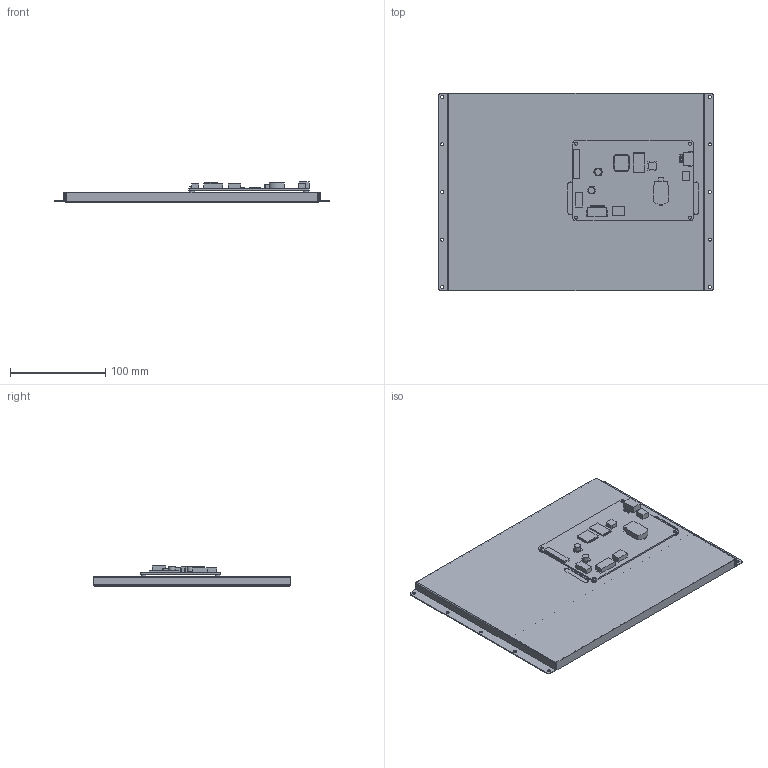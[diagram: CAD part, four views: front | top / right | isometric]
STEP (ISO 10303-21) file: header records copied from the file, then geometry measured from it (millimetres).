
FILE_DESCRIPTION(/* description */ (''),/* implementation_level */ '2;1');
FILE_NAME(/* name */ '',/* time_stamp */ '2021-04-20T11:32:44+08:00',/* author */ (''),/* organization */ (''),/* preprocessor_version */ 'ST-DEVELOPER v11',/* originating_system */ 'SIEMENS PLM Software NX 7.5',/* authorisation */ '');
FILE_SCHEMA (('AP203_CONFIGURATION_CONTROLLED_3D_DESIGN_OF_MECHANICAL_PARTS_AND_ASSEMBLIES_MIM_LF'));
Length unit declared in the file: millimetre
Products named in the file (1): SDWe121T87N
Bounding box: 288.8 x 207.4 x 21.1 mm (x, y, z)
Volume: 496951.7 mm3; surface area: 465808.1 mm2
Topology: 21 solids, 21 shells, 1410 faces, 3837 edges, 2588 vertices
Faces by surface type: plane 1362, cylinder 41, extrusion 7
Full cylindrical faces by diameter (mm): 3.2 x18, 5.3 x4, 6.776 x2
Entity records: 44536 total; most frequent: CARTESIAN_POINT 8155, ORIENTED_EDGE 7326, DIRECTION 6713, EDGE_CURVE 3663, VECTOR 3661, LINE 3654, VERTEX_POINT 2324, AXIS2_PLACEMENT_3D 1526
